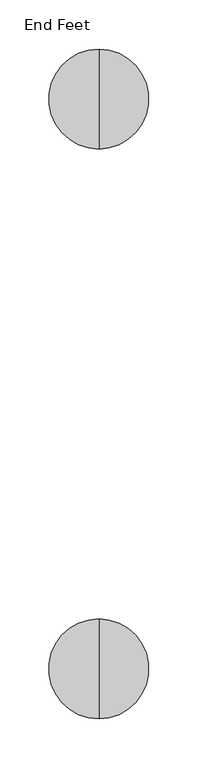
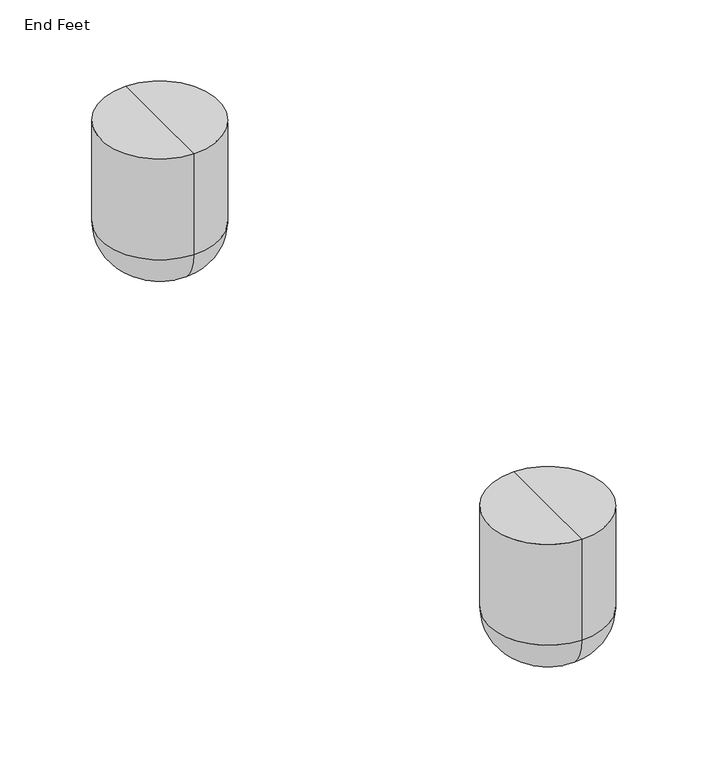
"""IFC4 building model written with IfcOpenShell, lengths in millimetres: furniture geometry, Coalesse_AM_Ensemble_Planter_EndFeet : End Feet."""

from ifc_helpers import new_model, si_unit, point, frame, origin, place, context, project, spatial, circle_curve, ellipse_curve, trimmed, source, transform, mapped, element, save
from ifc_brep_helpers import plane_surface, cylinder_surface, revolved_surface, advanced_brep


def end_feet_4685812c(model_context):
    return source(origin(), model_context, "Body", "AdvancedBrep", [
        advanced_brep(
        [(1.939512, 747.4877706, 130.0907271), (1.939512, 645.5490367, 130.0907271), (1.939512, 696.5184037, 130.0907271), (1.939512, 747.4877706, 38.1), (1.939512, 645.5490367, 38.1), (1.939512, 709.3877706, 0.0), (1.939512, 683.6490367, 0.0), (1.939512, 696.5184037, 0.0)],
        [
            (0, 1, circle_curve(frame((1.939512, 696.5184037, 130.0907271), z_axis=(0.0, 0.0, 1.0), x_axis=(0.0, -1.0, 0.0)), 50.969367)),
            (1, 2),
            (2, 0),
            (1, 0, circle_curve(frame((1.939512, 696.5184037, 130.0907271), z_axis=(0.0, 0.0, 1.0), x_axis=(0.0, -1.0, 0.0)), 50.969367)),
            (3, 4, circle_curve(frame((1.939512, 696.5184037, 38.1), z_axis=(0.0, 0.0, 1.0), x_axis=(0.0, -1.0, 0.0)), 50.969367)),
            (4, 1),
            (0, 3),
            (4, 3, circle_curve(frame((1.939512, 696.5184037, 38.1), z_axis=(0.0, 0.0, 1.0), x_axis=(0.0, -1.0, 0.0)), 50.969367)),
            (5, 6, circle_curve(frame((1.939512, 696.5184037, 0.0), z_axis=(0.0, 0.0, 1.0), x_axis=(0.0, -1.0, 0.0)), 12.869367)),
            (6, 4, circle_curve(frame((1.939512, 683.6490367, 38.1), z_axis=(-1.0, 0.0, 0.0), x_axis=(0.0, -1.0, 0.0)), 38.1)),
            (3, 5, circle_curve(frame((1.939512, 709.3877706, 38.1), z_axis=(-1.0, 0.0, 0.0), x_axis=(0.0, 1.0, 0.0)), 38.1)),
            (6, 5, circle_curve(frame((1.939512, 696.5184037, 0.0), z_axis=(0.0, 0.0, 1.0), x_axis=(0.0, -1.0, 0.0)), 12.869367)),
            (7, 6),
            (5, 7),
        ],
        [
            plane_surface(frame((1.939512, 696.5184037, 130.0907271), z_axis=(0.0, 0.0, 1.0), x_axis=(0.0, -1.0, 0.0))),
            cylinder_surface(frame((1.939512, 696.5184037, 130.0907271), z_axis=(0.0, 0.0, -1.0), x_axis=(0.0, -1.0, 0.0)), 50.969367),
            revolved_surface(trimmed(ellipse_curve(frame((1.939512, 683.6490367, 38.1), z_axis=(1.0, 0.0, 0.0), x_axis=(0.0, -1.0, 0.0)), 38.1, 38.1), [point((1.939512, 645.5490367, 38.1))], [point((1.939512, 683.6490367, 0.0))], True, "CARTESIAN"), (1.939512, 696.5184037, 130.0907271), (0.0, 0.0, -1.0)),
            plane_surface(frame((1.939512, 696.5184037, 0.0), z_axis=(0.0, 0.0, -1.0), x_axis=(0.0, -1.0, 0.0))),
        ],
        [
            (0, [[1, 2, 3]]),
            (0, [[4, -3, -2]]),
            (1, [[5, 6, -1, 7]]),
            (1, [[8, -7, -4, -6]]),
            (2, [[9, 10, -5, 11]]),
            (2, [[12, -11, -8, -10]]),
            (3, [[13, -9, 14]]),
            (3, [[-14, -12, -13]]),
        ],
    ),
        advanced_brep(
        [(1.939512, 166.4627706, 130.0907271), (1.939512, 64.5240367, 130.0907271), (1.939512, 115.4934037, 130.0907271), (1.939512, 166.4627706, 38.1), (1.939512, 64.5240367, 38.1), (1.939512, 128.3627706, 0.0), (1.939512, 102.6240367, 0.0), (1.939512, 115.4934037, 0.0)],
        [
            (0, 1, circle_curve(frame((1.939512, 115.4934037, 130.0907271), z_axis=(0.0, 0.0, 1.0), x_axis=(0.0, -1.0, 0.0)), 50.969367)),
            (1, 2),
            (2, 0),
            (1, 0, circle_curve(frame((1.939512, 115.4934037, 130.0907271), z_axis=(0.0, 0.0, 1.0), x_axis=(0.0, -1.0, 0.0)), 50.969367)),
            (3, 4, circle_curve(frame((1.939512, 115.4934037, 38.1), z_axis=(0.0, 0.0, 1.0), x_axis=(0.0, -1.0, 0.0)), 50.969367)),
            (4, 1),
            (0, 3),
            (4, 3, circle_curve(frame((1.939512, 115.4934037, 38.1), z_axis=(0.0, 0.0, 1.0), x_axis=(0.0, -1.0, 0.0)), 50.969367)),
            (5, 6, circle_curve(frame((1.939512, 115.4934037, 0.0), z_axis=(0.0, 0.0, 1.0), x_axis=(0.0, -1.0, 0.0)), 12.869367)),
            (6, 4, circle_curve(frame((1.939512, 102.6240367, 38.1), z_axis=(-1.0, 0.0, 0.0), x_axis=(0.0, -1.0, 0.0)), 38.1)),
            (3, 5, circle_curve(frame((1.939512, 128.3627706, 38.1), z_axis=(-1.0, 0.0, 0.0), x_axis=(0.0, 1.0, 0.0)), 38.1)),
            (6, 5, circle_curve(frame((1.939512, 115.4934037, 0.0), z_axis=(0.0, 0.0, 1.0), x_axis=(0.0, -1.0, 0.0)), 12.869367)),
            (7, 6),
            (5, 7),
        ],
        [
            plane_surface(frame((1.939512, 115.4934037, 130.0907271), z_axis=(0.0, 0.0, 1.0), x_axis=(0.0, -1.0, 0.0))),
            cylinder_surface(frame((1.939512, 115.4934037, 130.0907271), z_axis=(0.0, 0.0, -1.0), x_axis=(0.0, -1.0, 0.0)), 50.969367),
            revolved_surface(trimmed(ellipse_curve(frame((1.939512, 102.6240367, 38.1), z_axis=(1.0, 0.0, 0.0), x_axis=(0.0, -1.0, 0.0)), 38.1, 38.1), [point((1.939512, 64.5240367, 38.1))], [point((1.939512, 102.6240367, 0.0))], True, "CARTESIAN"), (1.939512, 115.4934037, 130.0907271), (0.0, 0.0, -1.0)),
            plane_surface(frame((1.939512, 115.4934037, 0.0), z_axis=(0.0, 0.0, -1.0), x_axis=(0.0, -1.0, 0.0))),
        ],
        [
            (0, [[1, 2, 3]]),
            (0, [[4, -3, -2]]),
            (1, [[5, 6, -1, 7]]),
            (1, [[8, -7, -4, -6]]),
            (2, [[9, 10, -5, 11]]),
            (2, [[12, -11, -8, -10]]),
            (3, [[13, -9, 14]]),
            (3, [[-14, -12, -13]]),
        ],
    ),
    ])


if __name__ == "__main__":
    model = new_model("IFC4")
    model_context = context("Model", 3, world=origin())
    ifc_project = project(units=[si_unit("LENGTHUNIT", "METRE", prefix="MILLI")], contexts=[model_context])
    site = spatial("IfcSite", under=ifc_project)
    building = spatial("IfcBuilding", under=site)
    placement = place(None, origin())
    end_feet_shape = end_feet_4685812c(model_context)
    element("IfcFurniture", 1, ObjectType="Coalesse_AM_Ensemble_Planter_EndFeet : End Feet", at=placement, inside=building, context=model_context, shape_type="MappedRepresentation", body=[
        mapped(end_feet_shape, transform((0.0, 0.0, 0.0), x_axis=(1.0, 0.0, 0.0), y_axis=(0.0, 1.0, 0.0), z_axis=(0.0, 0.0, 1.0))),
    ])
    save(model, "model.ifc")
